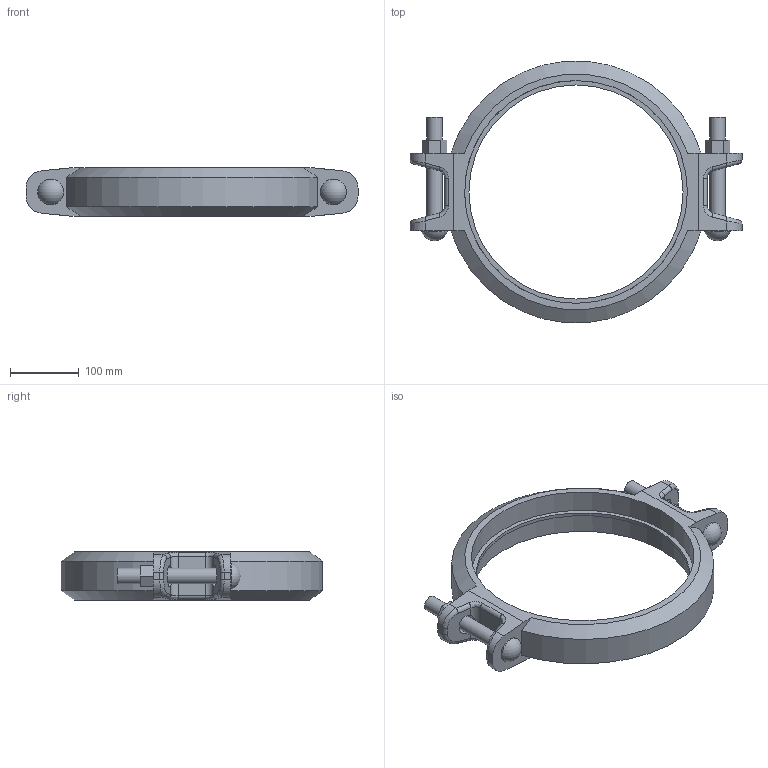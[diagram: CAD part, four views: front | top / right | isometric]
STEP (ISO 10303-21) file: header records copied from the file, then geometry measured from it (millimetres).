
FILE_DESCRIPTION(/* description */ ('QUICKVIC RIGID COUPLING FOR STEEL STYLE 107N','CAx-IF Rec.Pracs.---Representation and Presentation of Product Manufacturing Information (PMI)---4.0---2014-10-13'),/* implementation_level */ '2;1');
FILE_NAME(/* name */ 'C:\Users\Vjadhav\Desktop\CAD for Inventor\1\Coupling bolt thickness\107N\STEP\Victaulic_IPS_Coupling Rigid_Style 107N (OGS)\Victaulic_IPS_Coupling Rigid_Style 107N (OGS)_12 (300).stp',/* time_stamp */ '2022-03-28T14:19:53+06:00',/* author */ ('jheald'),/* organization */ ('Victaulic'),/* preprocessor_version */ 'ST-DEVELOPER v17.2',/* originating_system */ 'Autodesk Inventor 2019',/* authorisation */ '');
FILE_SCHEMA (('AP242_MANAGED_MODEL_BASED_3D_ENGINEERING_MIM_LF { 1 0 10303 442 1 1 4 }'));
Length unit declared in the file: inch
Products named in the file (1): 107N-12.0
Bounding box: 482.6 x 379.63 x 69.85 mm (x, y, z)
Volume: 2412015.7 mm3; surface area: 274381 mm2
Topology: 1 solids, 1 shells, 119 faces, 315 edges, 202 vertices
Faces by surface type: plane 50, cylinder 47, bspline 16, cone 4, sphere 2
Full cylindrical faces by diameter (mm): 22.225 x4, 37.694 x2, 311.15 x1, 323.85 x2
Entity records: 4596 total; most frequent: CARTESIAN_POINT 1342, DIRECTION 663, ORIENTED_EDGE 630, EDGE_CURVE 315, AXIS2_PLACEMENT_3D 247, VERTEX_POINT 202, LINE 169, VECTOR 169
